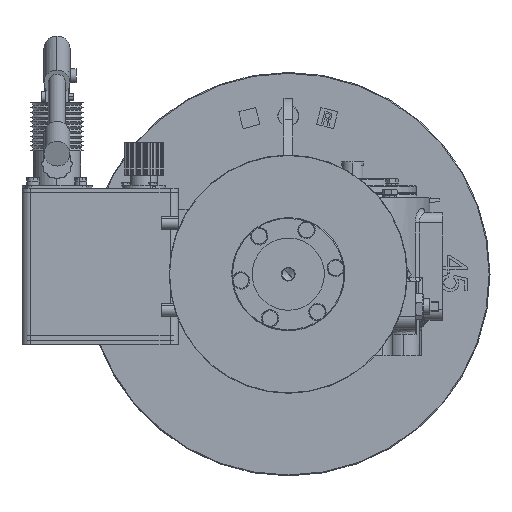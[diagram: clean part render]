
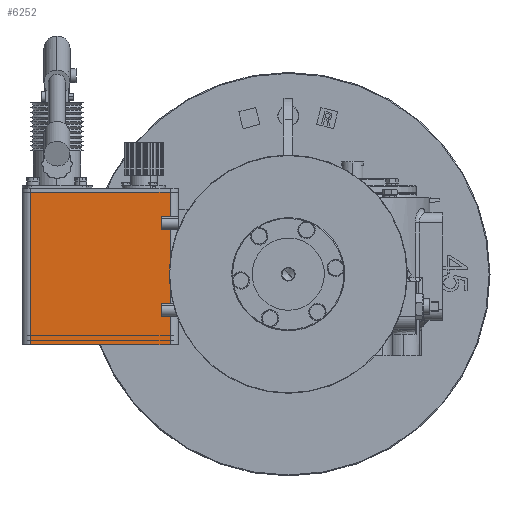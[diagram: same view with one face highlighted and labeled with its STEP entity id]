
A CAD part, left-side view. The second image highlights one B-rep face of the part: STEP entity #6252.
In plain terms, the highlighted planar face has unit normal (-1, 0, 0).
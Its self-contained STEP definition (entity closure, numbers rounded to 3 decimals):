
#1540 = VECTOR ( 'NONE', #2492, 1000. ) ;
#2492 = DIRECTION ( 'NONE',  ( 0., 1., 0. ) ) ;
#5524 = CARTESIAN_POINT ( 'NONE',  ( -88.523, 251.296, 96. ) ) ;
#5948 = LINE ( 'NONE', #5524, #67704 ) ;
#5967 = EDGE_CURVE ( 'NONE', #39719, #38588, #5948, .T. ) ;
#6252 = ADVANCED_FACE ( 'NONE', ( #43824 ), #16746, .F. ) ;
#6306 = ORIENTED_EDGE ( 'NONE', *, *, #37532, .T. ) ;
#9266 = CARTESIAN_POINT ( 'NONE',  ( -88.523, 251.296, -79. ) ) ;
#13812 = CARTESIAN_POINT ( 'NONE',  ( -88.523, 171.296, 8.5 ) ) ;
#16746 = PLANE ( 'NONE',  #48939 ) ;
#19017 = VERTEX_POINT ( 'NONE', #39201 ) ;
#21963 = LINE ( 'NONE', #13812, #26541 ) ;
#26541 = VECTOR ( 'NONE', #42258, 1000. ) ;
#27135 = CARTESIAN_POINT ( 'NONE',  ( -88.523, 171.296, 96. ) ) ;
#30213 = CARTESIAN_POINT ( 'NONE',  ( -88.523, 331.296, 96. ) ) ;
#35499 = CARTESIAN_POINT ( 'NONE',  ( -88.523, 331.296, 8.5 ) ) ;
#36000 = EDGE_LOOP ( 'NONE', ( #43460, #48826, #6306, #36003 ) ) ;
#36003 = ORIENTED_EDGE ( 'NONE', *, *, #41762, .F. ) ;
#37502 = EDGE_CURVE ( 'NONE', #39719, #43534, #21963, .T. ) ;
#37532 = EDGE_CURVE ( 'NONE', #38588, #19017, #47693, .T. ) ;
#38588 = VERTEX_POINT ( 'NONE', #30213 ) ;
#39201 = CARTESIAN_POINT ( 'NONE',  ( -88.523, 331.296, -79. ) ) ;
#39719 = VERTEX_POINT ( 'NONE', #27135 ) ;
#41762 = EDGE_CURVE ( 'NONE', #43534, #19017, #76177, .T. ) ;
#42258 = DIRECTION ( 'NONE',  ( 0., 0., -1. ) ) ;
#43460 = ORIENTED_EDGE ( 'NONE', *, *, #37502, .F. ) ;
#43534 = VERTEX_POINT ( 'NONE', #74492 ) ;
#43824 = FACE_OUTER_BOUND ( 'NONE', #36000, .T. ) ;
#47693 = LINE ( 'NONE', #35499, #61138 ) ;
#48826 = ORIENTED_EDGE ( 'NONE', *, *, #5967, .T. ) ;
#48939 = AXIS2_PLACEMENT_3D ( 'NONE', #58762, #72340, #85897 ) ;
#55379 = DIRECTION ( 'NONE',  ( 0., 0., -1. ) ) ;
#58762 = CARTESIAN_POINT ( 'NONE',  ( -88.523, 171.296, -79. ) ) ;
#61138 = VECTOR ( 'NONE', #55379, 1000. ) ;
#67704 = VECTOR ( 'NONE', #80587, 1000. ) ;
#72340 = DIRECTION ( 'NONE',  ( 1., 0., 0. ) ) ;
#74492 = CARTESIAN_POINT ( 'NONE',  ( -88.523, 171.296, -79. ) ) ;
#76177 = LINE ( 'NONE', #9266, #1540 ) ;
#80587 = DIRECTION ( 'NONE',  ( 0., 1., 0. ) ) ;
#85897 = DIRECTION ( 'NONE',  ( 0., 1., 0. ) ) ;
